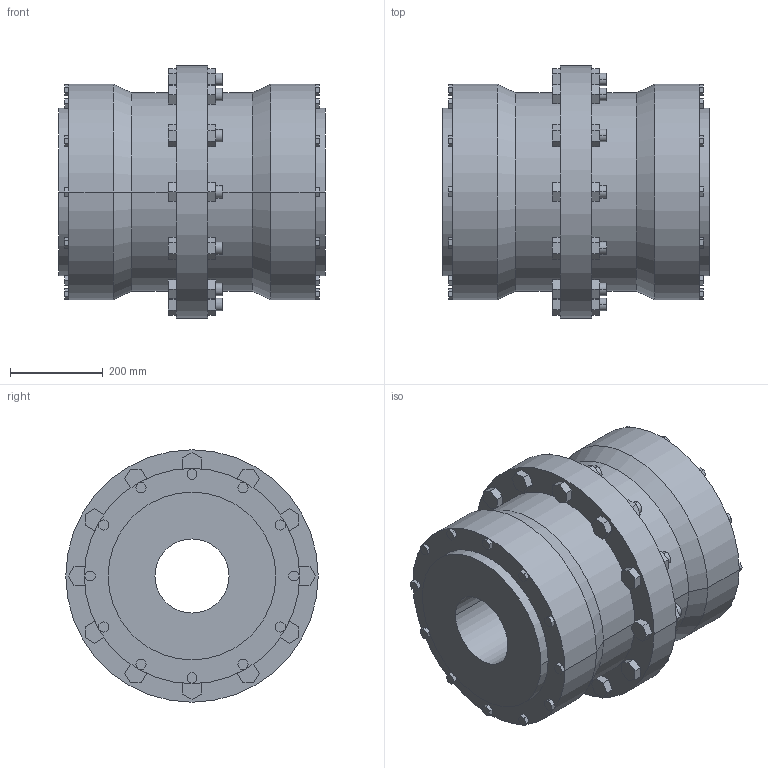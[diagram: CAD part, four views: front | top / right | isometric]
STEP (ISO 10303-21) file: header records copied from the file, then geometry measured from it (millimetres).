
FILE_DESCRIPTION((''),'2;1');
FILE_NAME('A18980800-0_ASM','2019-05-23T',('AB_Roschiwal'),('RENK AG'),'PRO/ENGINEER BY PARAMETRIC TECHNOLOGY CORPORATION, 2015440','PRO/ENGINEER BY PARAMETRIC TECHNOLOGY CORPORATION, 2015440','');
FILE_SCHEMA(('CONFIG_CONTROL_DESIGN'));
Length unit declared in the file: millimetre
Products named in the file (3): SBK225_GEHAEUSE; SBK225_NABE; A18980800-0_ASM
Assembly tree (3 placements, depth 2):
  A18980800-0_ASM
    SBK225_GEHAEUSE
    SBK225_NABE  x2
Bounding box: 576 x 545 x 545 mm (x, y, z)
Volume: 75825407 mm3; surface area: 3157574 mm2
Topology: 3 solids, 3 shells, 422 faces, 1036 edges, 688 vertices
Faces by surface type: plane 362, cylinder 56, cone 4
Entity records: 12052 total; most frequent: CARTESIAN_POINT 2100, ORIENTED_EDGE 2024, DIRECTION 1940, EDGE_CURVE 1012, VECTOR 916, LINE 916, VERTEX_POINT 672, AXIS2_PLACEMENT_3D 512
